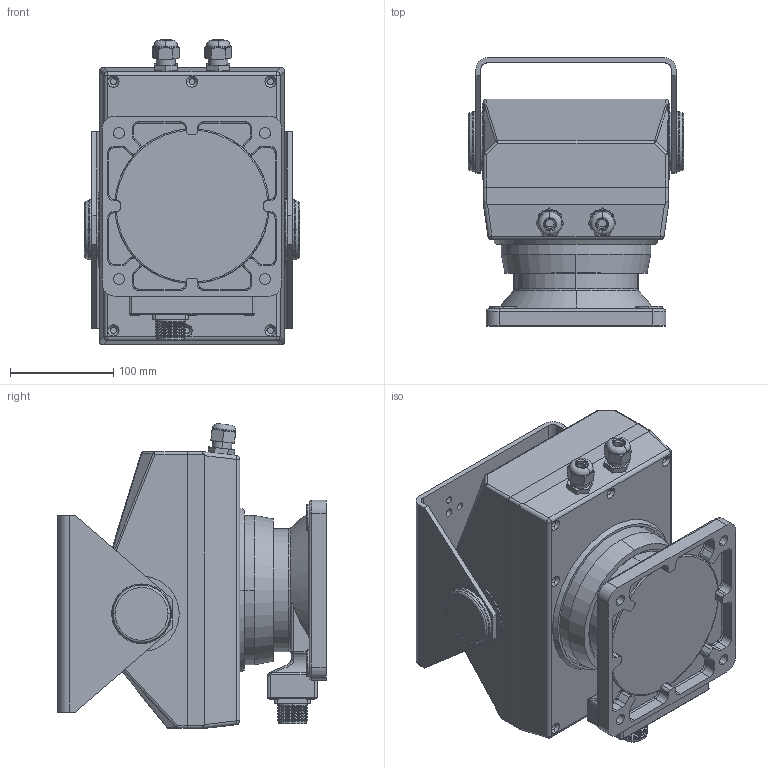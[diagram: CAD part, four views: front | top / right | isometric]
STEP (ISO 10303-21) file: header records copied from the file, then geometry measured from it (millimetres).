
FILE_DESCRIPTION (( 'STEP AP214' ), '1' );
FILE_NAME ('PTB-1.STEP', '2019-07-02T19:18:38', ( '' ), ( '' ), 'SwSTEP 2.0', 'SolidWorks 2016', '' );
FILE_SCHEMA (( 'AUTOMOTIVE_DESIGN' ));
Length unit declared in the file: inch
Products named in the file (11): Flat Washer Type A Narrow_AI_Preferred Narrow FW 0.125; PTB-1 Assembly; middle 1; Bottom; PTB-1; 69915K51; Cord Grip Cap; Cord Grip Nut; Cord Grip Base; Oval Head_AI_CR-OHMS 0.112-48x0.125x0.125-N
Assembly tree (21 placements, depth 3):
  PTB-1
    Bottom
    middle 1
    PTB-1 Assembly
    PTB-1 Assembly
    Flat Washer Type A Narrow_AI_Preferred Narrow FW 0.125  x6
    Oval Head_AI_CR-OHMS 0.112-48x0.125x0.125-N  x6
    69915K51  x2
      Cord Grip Base
      Cord Grip Nut
      Cord Grip Cap
Bounding box: 208.91 x 260.29 x 295.66 mm (x, y, z)
Volume: 7273873.7 mm3; surface area: 566491.3 mm2
Topology: 22 solids, 22 shells, 907 faces, 2115 edges, 1273 vertices
Faces by surface type: cylinder 348, plane 303, bspline 144, cone 92, torus 20
Entity records: 25513 total; most frequent: CARTESIAN_POINT 8567, DIRECTION 3546, ORIENTED_EDGE 3402, EDGE_CURVE 1701, AXIS2_PLACEMENT_3D 1412, VERTEX_POINT 1039, EDGE_LOOP 820, CIRCLE 805
